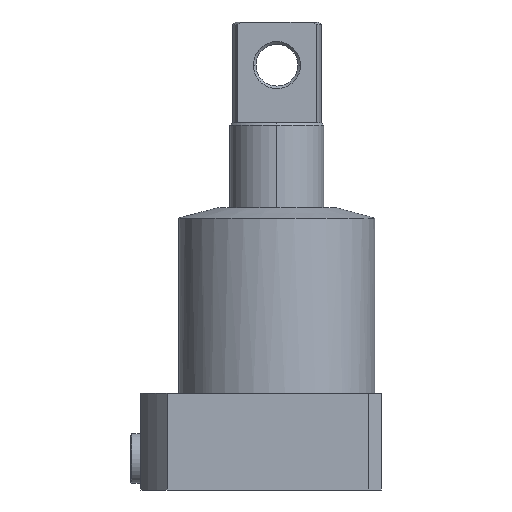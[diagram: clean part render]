
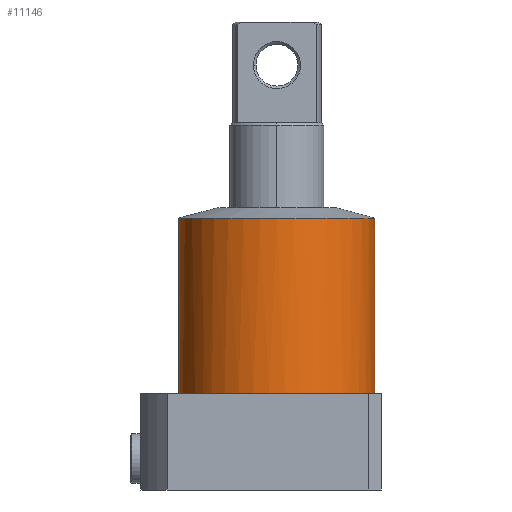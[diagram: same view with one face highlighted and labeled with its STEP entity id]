
A CAD part, front view. The second image highlights one B-rep face of the part: STEP entity #11146.
In plain terms, the highlighted cylindrical face has radius 37.5 mm (diameter 75 mm), a partial arc.
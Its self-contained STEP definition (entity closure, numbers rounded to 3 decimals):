
#28 = DIRECTION ( 'NONE',  ( 0., 0., 1. ) ) ;
#557 = ORIENTED_EDGE ( 'NONE', *, *, #4117, .F. ) ;
#579 = EDGE_LOOP ( 'NONE', ( #6668, #7316, #13879, #13516, #3213, #10321, #3794, #557 ) ) ;
#968 = CARTESIAN_POINT ( 'NONE',  ( 0., 0., 37. ) ) ;
#985 = CARTESIAN_POINT ( 'NONE',  ( 0., 0., 37. ) ) ;
#1114 = VERTEX_POINT ( 'NONE', #7933 ) ;
#1224 = CARTESIAN_POINT ( 'NONE',  ( 37.5, 0., 103.981 ) ) ;
#1709 = CARTESIAN_POINT ( 'NONE',  ( 28.128, -24.801, 37. ) ) ;
#1807 = EDGE_CURVE ( 'NONE', #4729, #7696, #12558, .T. ) ;
#2067 = EDGE_CURVE ( 'NONE', #12858, #13245, #4715, .T. ) ;
#2076 = VERTEX_POINT ( 'NONE', #1224 ) ;
#2082 = AXIS2_PLACEMENT_3D ( 'NONE', #968, #8946, #2134 ) ;
#2134 = DIRECTION ( 'NONE',  ( -1., 0., 0. ) ) ;
#2155 = DIRECTION ( 'NONE',  ( -1., 0., 0. ) ) ;
#2591 = VERTEX_POINT ( 'NONE', #9444 ) ;
#2819 = CARTESIAN_POINT ( 'NONE',  ( 37.5, 0., 108. ) ) ;
#3162 = CIRCLE ( 'NONE', #4923, 37.5 ) ;
#3213 = ORIENTED_EDGE ( 'NONE', *, *, #3348, .F. ) ;
#3348 = EDGE_CURVE ( 'NONE', #7696, #1114, #13247, .T. ) ;
#3540 = DIRECTION ( 'NONE',  ( -1., 0., 0. ) ) ;
#3794 = ORIENTED_EDGE ( 'NONE', *, *, #14747, .F. ) ;
#3953 = DIRECTION ( 'NONE',  ( 0., 0., -1. ) ) ;
#4117 = EDGE_CURVE ( 'NONE', #2591, #10942, #10567, .T. ) ;
#4204 = DIRECTION ( 'NONE',  ( 0., 0., -1. ) ) ;
#4224 = CARTESIAN_POINT ( 'NONE',  ( -37.5, 0., 37. ) ) ;
#4699 = DIRECTION ( 'NONE',  ( 0., 0., -1. ) ) ;
#4702 = EDGE_CURVE ( 'NONE', #12858, #2076, #12909, .T. ) ;
#4715 = LINE ( 'NONE', #8045, #11110 ) ;
#4729 = VERTEX_POINT ( 'NONE', #11454 ) ;
#4923 = AXIS2_PLACEMENT_3D ( 'NONE', #985, #8969, #2155 ) ;
#5375 = DIRECTION ( 'NONE',  ( 0., 0., -1. ) ) ;
#5518 = CARTESIAN_POINT ( 'NONE',  ( 0., 0., 37. ) ) ;
#5564 = AXIS2_PLACEMENT_3D ( 'NONE', #13045, #6206, #14224 ) ;
#5772 = DIRECTION ( 'NONE',  ( -1., 0., 0. ) ) ;
#6206 = DIRECTION ( 'NONE',  ( 0., 0., -1. ) ) ;
#6242 = CARTESIAN_POINT ( 'NONE',  ( -37.5, 0., 103.981 ) ) ;
#6668 = ORIENTED_EDGE ( 'NONE', *, *, #12823, .F. ) ;
#6807 = AXIS2_PLACEMENT_3D ( 'NONE', #6866, #28, #7987 ) ;
#6866 = CARTESIAN_POINT ( 'NONE',  ( 0., 0., 103.981 ) ) ;
#7316 = ORIENTED_EDGE ( 'NONE', *, *, #4702, .F. ) ;
#7696 = VERTEX_POINT ( 'NONE', #14070 ) ;
#7933 = CARTESIAN_POINT ( 'NONE',  ( -28.128, -24.801, 37. ) ) ;
#7987 = DIRECTION ( 'NONE',  ( -1., 0., 0. ) ) ;
#8045 = CARTESIAN_POINT ( 'NONE',  ( -37.5, 0., 108. ) ) ;
#8078 = CYLINDRICAL_SURFACE ( 'NONE', #10691, 37.5 ) ;
#8946 = DIRECTION ( 'NONE',  ( 0., 0., -1. ) ) ;
#8969 = DIRECTION ( 'NONE',  ( 0., 0., -1. ) ) ;
#9201 = DIRECTION ( 'NONE',  ( 0., 0., -1. ) ) ;
#9271 = AXIS2_PLACEMENT_3D ( 'NONE', #5518, #5375, #5772 ) ;
#9444 = CARTESIAN_POINT ( 'NONE',  ( 37.5, 0., 37. ) ) ;
#9543 = CIRCLE ( 'NONE', #2082, 37.5 ) ;
#10037 = EDGE_CURVE ( 'NONE', #1114, #13245, #9543, .T. ) ;
#10203 = VECTOR ( 'NONE', #3953, 1000. ) ;
#10321 = ORIENTED_EDGE ( 'NONE', *, *, #1807, .F. ) ;
#10567 = CIRCLE ( 'NONE', #5564, 37.5 ) ;
#10691 = AXIS2_PLACEMENT_3D ( 'NONE', #12669, #4699, #3540 ) ;
#10919 = LINE ( 'NONE', #2819, #10203 ) ;
#10942 = VERTEX_POINT ( 'NONE', #1709 ) ;
#11013 = CARTESIAN_POINT ( 'NONE',  ( 0., 0., 37. ) ) ;
#11110 = VECTOR ( 'NONE', #9201, 1000. ) ;
#11146 = ADVANCED_FACE ( 'NONE', ( #14564 ), #8078, .T. ) ;
#11454 = CARTESIAN_POINT ( 'NONE',  ( 24.801, -28.128, 37. ) ) ;
#11497 = AXIS2_PLACEMENT_3D ( 'NONE', #11013, #4204, #12171 ) ;
#12171 = DIRECTION ( 'NONE',  ( -1., 0., 0. ) ) ;
#12558 = CIRCLE ( 'NONE', #9271, 37.5 ) ;
#12669 = CARTESIAN_POINT ( 'NONE',  ( 0., 0., 108. ) ) ;
#12823 = EDGE_CURVE ( 'NONE', #2076, #2591, #10919, .T. ) ;
#12858 = VERTEX_POINT ( 'NONE', #6242 ) ;
#12909 = CIRCLE ( 'NONE', #6807, 37.5 ) ;
#13045 = CARTESIAN_POINT ( 'NONE',  ( 0., 0., 37. ) ) ;
#13245 = VERTEX_POINT ( 'NONE', #4224 ) ;
#13247 = CIRCLE ( 'NONE', #11497, 37.5 ) ;
#13516 = ORIENTED_EDGE ( 'NONE', *, *, #10037, .F. ) ;
#13879 = ORIENTED_EDGE ( 'NONE', *, *, #2067, .T. ) ;
#14070 = CARTESIAN_POINT ( 'NONE',  ( -24.801, -28.128, 37. ) ) ;
#14224 = DIRECTION ( 'NONE',  ( -1., 0., 0. ) ) ;
#14564 = FACE_OUTER_BOUND ( 'NONE', #579, .T. ) ;
#14747 = EDGE_CURVE ( 'NONE', #10942, #4729, #3162, .T. ) ;
